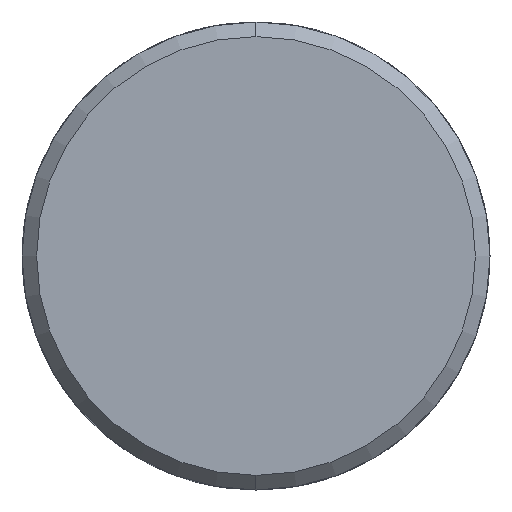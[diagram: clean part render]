
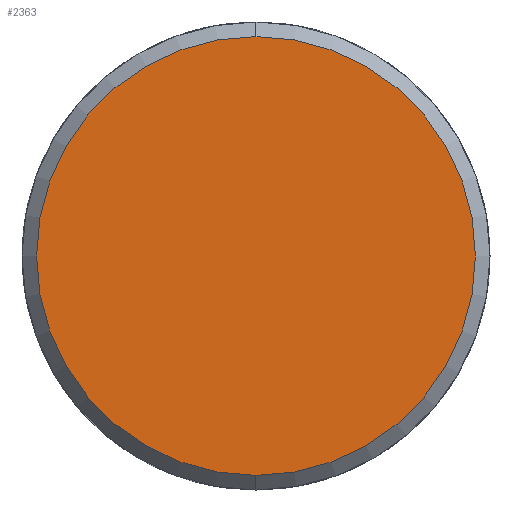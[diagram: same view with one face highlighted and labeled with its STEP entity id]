
A CAD part, left-side view. The second image highlights one B-rep face of the part: STEP entity #2363.
In plain terms, the highlighted planar face has unit normal (-1, 0, 0).
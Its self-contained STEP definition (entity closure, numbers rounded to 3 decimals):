
#420 = EDGE_LOOP ( 'NONE', ( #1518, #1165 ) ) ;
#492 = AXIS2_PLACEMENT_3D ( 'NONE', #4475, #4470, #4467 ) ;
#1165 = ORIENTED_EDGE ( 'NONE', *, *, #2651, .F. ) ;
#1504 = FACE_OUTER_BOUND ( 'NONE', #420, .T. ) ;
#1518 = ORIENTED_EDGE ( 'NONE', *, *, #1878, .F. ) ;
#1702 = AXIS2_PLACEMENT_3D ( 'NONE', #2523, #2517, #2509 ) ;
#1878 = EDGE_CURVE ( 'NONE', #5831, #5299, #2415, .T. ) ;
#2363 = ADVANCED_FACE ( 'NONE', ( #1504 ), #2636, .T. ) ;
#2415 = CIRCLE ( 'NONE', #492, 7.5 ) ;
#2509 = DIRECTION ( 'NONE',  ( 0., 0., -1. ) ) ;
#2517 = DIRECTION ( 'NONE',  ( 1., 0., 0. ) ) ;
#2523 = CARTESIAN_POINT ( 'NONE',  ( 0., 0., 0. ) ) ;
#2582 = DIRECTION ( 'NONE',  ( 0., 0., 1. ) ) ;
#2586 = DIRECTION ( 'NONE',  ( -1., 0., 0. ) ) ;
#2598 = CARTESIAN_POINT ( 'NONE',  ( 0., 0., 0. ) ) ;
#2610 = CARTESIAN_POINT ( 'NONE',  ( 0., 0., 7.5 ) ) ;
#2636 = PLANE ( 'NONE',  #3254 ) ;
#2651 = EDGE_CURVE ( 'NONE', #5299, #5831, #5929, .T. ) ;
#3254 = AXIS2_PLACEMENT_3D ( 'NONE', #2598, #2586, #2582 ) ;
#4467 = DIRECTION ( 'NONE',  ( 0., 0., -1. ) ) ;
#4470 = DIRECTION ( 'NONE',  ( 1., 0., 0. ) ) ;
#4475 = CARTESIAN_POINT ( 'NONE',  ( 0., 0., 0. ) ) ;
#5299 = VERTEX_POINT ( 'NONE', #2610 ) ;
#5592 = CARTESIAN_POINT ( 'NONE',  ( 0., 0., -7.5 ) ) ;
#5831 = VERTEX_POINT ( 'NONE', #5592 ) ;
#5929 = CIRCLE ( 'NONE', #1702, 7.5 ) ;
